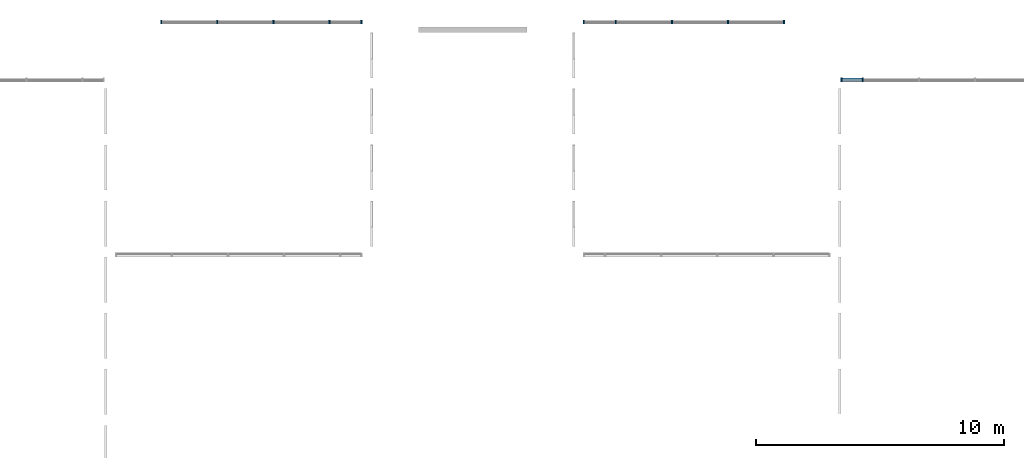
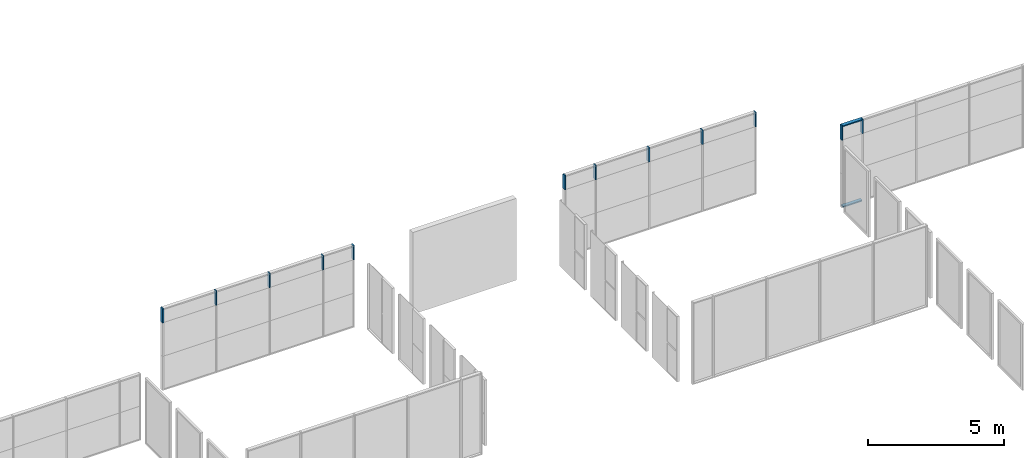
# One storey, part 6 of 15: 14 members, 3 elements without a shape of their own.
"""IFC2X3 building model written with IfcOpenShell, lengths in millimetres."""

import ifcopenshell
import ifcopenshell.guid

model = None  # the IFC model being written
_history = None  # IfcOwnerHistory: only IFC2X3 demands one
_inside = {}  # id of a spatial element -> (the spatial element, [elements in it])
_under = {}  # id of a project, library or spatial element -> (it, [spatial elements below it])
_declared = {}  # id of a project -> (the project, [libraries it declares])
_typed = {}  # id of a type object -> (the type object, [elements of that type])
_made_of = {}  # id of a material, layer set ... -> (it, [elements and type objects made of it])


def new_model(schema):
    """Start an empty IFC model of exactly this schema.

    Asked for "IFC4X3", IfcOpenShell would pick the latest addendum, in which some entities
    have other attributes; the version numbers below select the first issue.
    IFC2X3 requires an IfcOwnerHistory on every rooted entity: one is made here for all.
    """
    global model, _history
    if schema == "IFC4X3":
        model = ifcopenshell.file(schema_version=(4, 3, 0, 0))
    else:
        model = ifcopenshell.file(schema=schema)
    _inside.clear()
    _under.clear()
    _declared.clear()
    _typed.clear()
    _made_of.clear()
    _history = None
    if model.schema == "IFC2X3":
        org = make("IfcOrganization", Name="unknown")
        user = make(
            "IfcPersonAndOrganization",
            ThePerson=make("IfcPerson", FamilyName="unknown"),
            TheOrganization=org,
        )
        app = make(
            "IfcApplication",
            ApplicationDeveloper=org,
            Version="unknown",
            ApplicationFullName="unknown",
            ApplicationIdentifier="unknown",
        )
        _history = make(
            "IfcOwnerHistory",
            OwningUser=user,
            OwningApplication=app,
            ChangeAction="ADDED",
            CreationDate=0,
        )
    return model


def make(cls, **values):
    """One entity of the class cls with the attributes given. An attribute that is None is left unset."""
    return model.create_entity(
        cls, **{name: value for name, value in values.items() if value is not None}
    )


def entity(cls, *values):
    """Any entity or typed value of the class cls, its attributes in the order of the schema. None: left unset."""
    e = model.create_entity(cls)
    for i, value in enumerate(values):
        if value is not None:
            e[i] = value
    return e


def rooted(cls, **values):
    """An entity with a GlobalId (a new one), such as an element, a storey or a relation."""
    return make(cls, GlobalId=ifcopenshell.guid.new(), OwnerHistory=_history, **values)


def si_unit(unit_type, name, prefix=None):
    """IfcSIUnit, for example si_unit("LENGTHUNIT", "METRE", prefix="MILLI")."""
    return make("IfcSIUnit", UnitType=unit_type, Prefix=prefix, Name=name)


def converted_unit(unit_type, name, factor, base, dimensions=None, offset=None):
    """IfcConversionBasedUnit, such as the inch: factor (a typed value) times the base unit."""
    return make(
        "IfcConversionBasedUnit"
        if offset is None
        else "IfcConversionBasedUnitWithOffset",
        ConversionOffset=offset,
        Dimensions=None
        if dimensions is None
        else entity("IfcDimensionalExponents", *dimensions),
        UnitType=unit_type,
        Name=name,
        ConversionFactor=make(
            "IfcMeasureWithUnit", ValueComponent=factor, UnitComponent=base
        ),
    )


def derived_unit(unit_type, elements):
    """IfcDerivedUnit: a product of units, each with its exponent."""
    return make(
        "IfcDerivedUnit",
        Elements=[
            make("IfcDerivedUnitElement", Unit=unit, Exponent=power)
            for unit, power in elements
        ],
        UnitType=unit_type,
    )


def assignment(units):
    """IfcUnitAssignment: the units of a project."""
    return None if units is None else make("IfcUnitAssignment", Units=units)


def point(xyz):
    """IfcCartesianPoint."""
    return None if xyz is None else make("IfcCartesianPoint", Coordinates=xyz)


def direction(xyz):
    """IfcDirection."""
    return None if xyz is None else make("IfcDirection", DirectionRatios=xyz)


def frame(location, z_axis=None, x_axis=None):
    """IfcAxis2Placement3D, a coordinate frame: its origin and axes. An axis left out is left unset."""
    return make(
        "IfcAxis2Placement3D",
        Location=point(location),
        Axis=direction(z_axis),
        RefDirection=direction(x_axis),
    )


def frame_2d(location, x_axis=None):
    """IfcAxis2Placement2D, a coordinate frame in the plane: its origin and x axis."""
    return make(
        "IfcAxis2Placement2D", Location=point(location), RefDirection=direction(x_axis)
    )


def origin():
    """The frame at (0, 0, 0) with its axes left unset."""
    return frame((0.0, 0.0, 0.0))


def origin_2d_with_axis():
    """The frame at (0, 0) in the plane with the x axis (1, 0) written out."""
    return frame_2d((0.0, 0.0), x_axis=(1.0, 0.0))


def place(relative_to, where):
    """IfcLocalPlacement: puts the frame where relative to a parent placement (None: the world)."""
    return make(
        "IfcLocalPlacement", PlacementRelTo=relative_to, RelativePlacement=where
    )


def context(
    kind, dimensions, precision=None, world=None, true_north=None, identifier=None
):
    """IfcGeometricRepresentationContext, for example the 3D "Model" context."""
    return make(
        "IfcGeometricRepresentationContext",
        ContextIdentifier=identifier,
        ContextType=kind,
        CoordinateSpaceDimension=dimensions,
        Precision=precision,
        WorldCoordinateSystem=world,
        TrueNorth=true_north,
    )


def subcontext(parent, identifier, kind, view, scale=None):
    """IfcGeometricRepresentationSubContext, for example "Body" below "Model"."""
    return make(
        "IfcGeometricRepresentationSubContext",
        ContextIdentifier=identifier,
        ContextType=kind,
        ParentContext=parent,
        TargetScale=scale,
        TargetView=view,
    )


def project(units=None, contexts=None):
    """IfcProject with its units and contexts."""
    return rooted(
        "IfcProject",
        Name="project",
        RepresentationContexts=contexts,
        UnitsInContext=assignment(units),
    )


def spatial(cls, under=None, at=None, **own):
    """A site, building, storey or space (cls), placed at a placement, below another one or the project."""
    s = rooted(cls, ObjectPlacement=at, **own)
    if under is not None:
        _under.setdefault(under.id(), (under, []))[1].append(s)
    return s


def profile(cls, at=None, kind="AREA", **sizes):
    """A parametric profile (cls). Its sizes go by their IFC names, for example OverallWidth=200.0."""
    return make(cls, ProfileType=kind, Position=at, **sizes)


def rectangle(**sizes):
    """IfcRectangleProfileDef."""
    return profile("IfcRectangleProfileDef", **sizes)


def extrude(swept, where, along, depth):
    """IfcExtrudedAreaSolid: the profile swept, set in the frame where, extruded along a direction by depth."""
    return make(
        "IfcExtrudedAreaSolid",
        SweptArea=swept,
        Position=where,
        ExtrudedDirection=direction(along),
        Depth=depth,
    )


def shape(context_of_items, identifier, shape_type, items):
    """IfcShapeRepresentation: the items that make up one representation, for example the "Body"."""
    return make(
        "IfcShapeRepresentation",
        ContextOfItems=context_of_items,
        RepresentationIdentifier=identifier,
        RepresentationType=shape_type,
        Items=items,
    )


def source(mapping_origin, context_of_items, identifier, shape_type, items):
    """IfcRepresentationMap: a shape defined once, which mapped items show again and again."""
    return make(
        "IfcRepresentationMap",
        MappingOrigin=mapping_origin,
        MappedRepresentation=shape(context_of_items, identifier, shape_type, items),
    )


def transform(
    local_origin,
    x_axis=None,
    y_axis=None,
    z_axis=None,
    scale=None,
    scale2=None,
    scale3=None,
    uniform=True,
):
    """IfcCartesianTransformationOperator3D, or its non-uniform kind. x_axis, y_axis, z_axis: its Axis1, 2, 3."""
    if uniform:
        return make(
            "IfcCartesianTransformationOperator3D",
            Axis1=direction(x_axis),
            Axis2=direction(y_axis),
            LocalOrigin=point(local_origin),
            Scale=scale,
            Axis3=direction(z_axis),
        )
    return make(
        "IfcCartesianTransformationOperator3DnonUniform",
        Axis1=direction(x_axis),
        Axis2=direction(y_axis),
        LocalOrigin=point(local_origin),
        Scale=scale,
        Axis3=direction(z_axis),
        Scale2=scale2,
        Scale3=scale3,
    )


def mapped(mapping_source, mapping_target):
    """IfcMappedItem: shows the shape of a source again, moved by a transform."""
    return make(
        "IfcMappedItem", MappingSource=mapping_source, MappingTarget=mapping_target
    )


def material(Name=None, Category=None):
    """IfcMaterial."""
    return make("IfcMaterial", Name=Name, Category=Category)


def made_of(thing, what):
    """Note that an element or type object is made of a material, layer set ...; save() writes the relation."""
    if what is not None:
        _made_of.setdefault(what.id(), (what, []))[1].append(thing)
    return thing


def type_object(cls, material=None, **own):
    """A type object (cls), such as IfcWallType, which elements share."""
    return made_of(rooted(cls, **own), material)


def type_shapes(of_type, sources):
    """Give a type object the sources (RepresentationMaps) that its elements show as mapped items."""
    of_type.RepresentationMaps = sources


def element(
    cls,
    number,
    at=None,
    inside=None,
    cuts=None,
    type_object=None,
    material=None,
    context=None,
    identifier="Body",
    shape_type=None,
    held_by="IfcProductDefinitionShape",
    body=None,
    shapes=None,
    **own,
):
    """One element of the class cls, such as IfcWall. Its Tag is "e" and its number.

    at: its placement. inside: the storey or other place that contains it. cuts: it is an
    opening in that element (IfcRelVoidsElement). A single representation is given by context,
    identifier, shape_type and body (its items); several are given by shapes. held_by: the class
    of the entity that holds the representations. save() writes the other relations.
    """
    e = rooted(cls, Tag="e%d" % number, ObjectPlacement=at, **own)
    if body is not None:
        shapes = [shape(context, identifier, shape_type, body)]
    if shapes is not None:
        e.Representation = make(held_by, Representations=shapes)
    if inside is not None:
        _inside.setdefault(inside.id(), (inside, []))[1].append(e)
    if cuts is not None:
        rooted(
            "IfcRelVoidsElement", RelatingBuildingElement=cuts, RelatedOpeningElement=e
        )
    if type_object is not None:
        _typed.setdefault(type_object.id(), (type_object, []))[1].append(e)
    return made_of(e, material)


def aggregate(whole, parts):
    """IfcRelAggregates: a whole, such as a stair, and the parts it consists of."""
    return rooted("IfcRelAggregates", RelatingObject=whole, RelatedObjects=parts)


def save(model, path):
    """Write the relations noted so far, then the file.

    IfcRelAggregates (storeys below a building ...), IfcRelContainedInSpatialStructure (elements
    in a storey), IfcRelDefinesByType, IfcRelAssociatesMaterial and IfcRelDeclares: one each for
    every whole, place, type object, material and project.
    """
    for whole, parts in _under.values():
        aggregate(whole, parts)
    for where, things in _inside.values():
        rooted(
            "IfcRelContainedInSpatialStructure",
            RelatedElements=things,
            RelatingStructure=where,
        )
    for kind, things in _typed.values():
        rooted("IfcRelDefinesByType", RelatedObjects=things, RelatingType=kind)
    for what, things in _made_of.values():
        rooted("IfcRelAssociatesMaterial", RelatedObjects=things, RelatingMaterial=what)
    for by, libraries in _declared.values():
        rooted("IfcRelDeclares", RelatingContext=by, RelatedDefinitions=libraries)
    model.write(path)


model = new_model("IFC2X3")

# Units and contexts
model_context = context("Model", 3, precision=0.01, world=origin(), true_north=direction((6.12303176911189e-17, 1.0)))
body_context = subcontext(model_context, "Body", "Model", "MODEL_VIEW")
ifc_project = project(units=[si_unit("LENGTHUNIT", "METRE", prefix="MILLI"), si_unit("AREAUNIT", "SQUARE_METRE"), si_unit("VOLUMEUNIT", "CUBIC_METRE"), converted_unit("PLANEANGLEUNIT", "DEGREE", entity("IfcRatioMeasure", 0.0174532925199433), si_unit("PLANEANGLEUNIT", "RADIAN"), dimensions=[0, 0, 0, 0, 0, 0, 0]), si_unit("MASSUNIT", "GRAM", prefix="KILO"), derived_unit("MASSDENSITYUNIT", [(si_unit("MASSUNIT", "GRAM", prefix="KILO"), 1), (si_unit("LENGTHUNIT", "METRE"), -3)]), derived_unit("MOMENTOFINERTIAUNIT", [(si_unit("LENGTHUNIT", "METRE"), 4)]), si_unit("TIMEUNIT", "SECOND"), si_unit("FREQUENCYUNIT", "HERTZ"), si_unit("THERMODYNAMICTEMPERATUREUNIT", "DEGREE_CELSIUS"), derived_unit("THERMALTRANSMITTANCEUNIT", [(si_unit("MASSUNIT", "GRAM", prefix="KILO"), 1), (si_unit("THERMODYNAMICTEMPERATUREUNIT", "KELVIN"), -1), (si_unit("TIMEUNIT", "SECOND"), -3)]), derived_unit("VOLUMETRICFLOWRATEUNIT", [(si_unit("LENGTHUNIT", "METRE"), 3), (si_unit("TIMEUNIT", "SECOND"), -1)]), si_unit("ELECTRICCURRENTUNIT", "AMPERE"), si_unit("ELECTRICVOLTAGEUNIT", "VOLT"), si_unit("POWERUNIT", "WATT"), si_unit("FORCEUNIT", "NEWTON", prefix="KILO"), si_unit("ILLUMINANCEUNIT", "LUX"), si_unit("LUMINOUSFLUXUNIT", "LUMEN"), si_unit("LUMINOUSINTENSITYUNIT", "CANDELA"), derived_unit("USERDEFINED", [(si_unit("MASSUNIT", "GRAM", prefix="KILO"), -1), (si_unit("LENGTHUNIT", "METRE"), -2), (si_unit("TIMEUNIT", "SECOND"), 3), (si_unit("LUMINOUSFLUXUNIT", "LUMEN"), 1)]), derived_unit("LINEARVELOCITYUNIT", [(si_unit("LENGTHUNIT", "METRE"), 1), (si_unit("TIMEUNIT", "SECOND"), -1)]), si_unit("PRESSUREUNIT", "PASCAL"), derived_unit("USERDEFINED", [(si_unit("LENGTHUNIT", "METRE"), -2), (si_unit("MASSUNIT", "GRAM", prefix="KILO"), 1), (si_unit("TIMEUNIT", "SECOND"), -2)]), derived_unit("LINEARFORCEUNIT", [(si_unit("MASSUNIT", "GRAM", prefix="KILO"), 1), (si_unit("LENGTHUNIT", "METRE"), 1), (si_unit("TIMEUNIT", "SECOND"), -2), (si_unit("LENGTHUNIT", "METRE"), -1)]), derived_unit("PLANARFORCEUNIT", [(si_unit("MASSUNIT", "GRAM", prefix="KILO"), 1), (si_unit("LENGTHUNIT", "METRE"), 1), (si_unit("TIMEUNIT", "SECOND"), -2), (si_unit("LENGTHUNIT", "METRE"), -2)])], contexts=[model_context])

# Site, building, storey
site_placement = place(None, frame((10627.5135316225, 21939.0796949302, 0.0)))
site = spatial("IfcSite", under=ifc_project, at=site_placement, Name="Default", CompositionType="ELEMENT")
building_placement = place(site_placement, origin())
building = spatial("IfcBuilding", under=site, at=building_placement, CompositionType="ELEMENT")
storey_placement = place(building_placement, origin())
storey = spatial("IfcBuildingStorey", under=building, at=storey_placement, Name="RDC", CompositionType="ELEMENT", Elevation=0.0)

# Curtain wall, members
curtain_wall_type = type_object("IfcCurtainWallType", Name="Curtain Wall:Curtain_Wall-Empty", PredefinedType="NOTDEFINED")
curtain_wall_1_placement = place(storey_placement, origin())
curtain_wall_1 = element("IfcCurtainWall", 1, at=curtain_wall_1_placement, inside=storey, type_object=curtain_wall_type, Name="Curtain Wall:Curtain_Wall-Empty", ObjectType="Curtain Wall:Curtain_Wall-Empty")
ifc_material = material(Name="Aluminium")
member_type_1 = type_object("IfcMemberType", Name="Rectangular Mullion:50x150mm", PredefinedType="MULLION", material=ifc_material)
shared_shape_1 = source(origin(), body_context, "Body", "SweptSolid", [
    extrude(rectangle(XDim=150.0, YDim=50.0, at=origin_2d_with_axis()), frame((-25.0, 0.0, -645.0), z_axis=(0.0, 0.0, 1.0), x_axis=(0.0, -1.0, 0.0)), (0.0, 0.0, 1.0), 645.0),
])
type_shapes(member_type_1, [shared_shape_1])
member_1_placement = place(storey_placement, frame((14007.4864683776, 16695.9203050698, 3660.0), z_axis=(0.0, 0.0, 1.0), x_axis=(-1.0, 0.0, 0.0)))
member_1 = element("IfcMember", 2, at=member_1_placement, type_object=member_type_1, material=ifc_material, Name="Rectangular Mullion:50x150mm", ObjectType="Rectangular Mullion:50x150mm", context=body_context, shape_type="MappedRepresentation", body=[
    mapped(shared_shape_1, transform((0.0, 0.0, 0.0), scale=1.0)),
])
member_type_2 = type_object("IfcMemberType", Name="Rectangular Mullion:50x150mm", PredefinedType="MULLION", material=ifc_material)
shared_shape_2 = source(origin(), body_context, "Body", "SweptSolid", [
    extrude(rectangle(XDim=150.0, YDim=50.0, at=origin_2d_with_axis()), frame((-25.0, 0.0, -645.0), z_axis=(0.0, 0.0, 1.0), x_axis=(0.0, -1.0, 0.0)), (0.0, 0.0, 1.0), 645.0),
])
type_shapes(member_type_2, [shared_shape_2])
member_2_placement = place(storey_placement, frame((22127.4864683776, 16695.9203050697, 3015.0), z_axis=(0.0, 0.0, -1.0), x_axis=(1.0, 0.0, 0.0)))
member_2 = element("IfcMember", 3, at=member_2_placement, type_object=member_type_2, material=ifc_material, Name="Rectangular Mullion:50x150mm", ObjectType="Rectangular Mullion:50x150mm", context=body_context, shape_type="MappedRepresentation", body=[
    mapped(shared_shape_2, transform((0.0, 0.0, 0.0), scale=1.0)),
])
member_type_3 = type_object("IfcMemberType", Name="Rectangular Mullion:50x150mm", PredefinedType="MULLION", material=ifc_material)
shared_shape_3 = source(origin(), body_context, "Body", "SweptSolid", [
    extrude(rectangle(XDim=150.0, YDim=50.0, at=origin_2d_with_axis()), frame((0.0, 0.0, -645.0), z_axis=(0.0, 0.0, 1.0), x_axis=(0.0, -1.0, 0.0)), (0.0, 0.0, 1.0), 645.0),
])
type_shapes(member_type_3, [shared_shape_3])
member_3_placement = place(storey_placement, frame((16292.4864686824, 16695.9203050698, 3015.0), z_axis=(0.0, 0.0, -1.0), x_axis=(1.0, 0.0, 0.0)))
member_3 = element("IfcMember", 4, at=member_3_placement, type_object=member_type_3, material=ifc_material, Name="Rectangular Mullion:50x150mm", ObjectType="Rectangular Mullion:50x150mm", context=body_context, shape_type="MappedRepresentation", body=[
    mapped(shared_shape_3, transform((0.0, 0.0, 0.0), scale=1.0)),
])
member_4_placement = place(storey_placement, frame((18552.4864686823, 16695.9203050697, 3015.0), z_axis=(0.0, 0.0, -1.0), x_axis=(1.0, 0.0, 0.0)))
member_4 = element("IfcMember", 5, at=member_4_placement, type_object=member_type_3, material=ifc_material, Name="Rectangular Mullion:50x150mm", ObjectType="Rectangular Mullion:50x150mm", context=body_context, shape_type="MappedRepresentation", body=[
    mapped(shared_shape_3, transform((0.0, 0.0, 0.0), scale=1.0)),
])
member_5_placement = place(storey_placement, frame((20812.4864686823, 16695.9203050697, 3015.0), z_axis=(0.0, 0.0, -1.0), x_axis=(1.0, 0.0, 0.0)))
member_5 = element("IfcMember", 6, at=member_5_placement, type_object=member_type_3, material=ifc_material, Name="Rectangular Mullion:50x150mm", ObjectType="Rectangular Mullion:50x150mm", context=body_context, shape_type="MappedRepresentation", body=[
    mapped(shared_shape_3, transform((0.0, 0.0, 0.0), scale=1.0)),
])
aggregate(curtain_wall_1, [member_1, member_2, member_3, member_4, member_5])

curtain_wall_2_placement = place(storey_placement, origin())
curtain_wall_2 = element("IfcCurtainWall", 7, at=curtain_wall_2_placement, inside=storey, type_object=curtain_wall_type, Name="Curtain Wall:Curtain_Wall-Empty", ObjectType="Curtain Wall:Curtain_Wall-Empty")
member_type_4 = type_object("IfcMemberType", Name="Rectangular Mullion:50x150mm", PredefinedType="MULLION", material=ifc_material)
shared_shape_4 = source(origin(), body_context, "Body", "SweptSolid", [
    extrude(rectangle(XDim=150.0, YDim=50.0, at=origin_2d_with_axis()), frame((-25.0, 0.0, -645.0), z_axis=(0.0, 0.0, 1.0), x_axis=(0.0, -1.0, 0.0)), (0.0, 0.0, 1.0), 645.0),
])
type_shapes(member_type_4, [shared_shape_4])
member_6_placement = place(storey_placement, frame((39147.4864683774, 16695.9203050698, 3660.0)))
member_6 = element("IfcMember", 8, at=member_6_placement, type_object=member_type_4, material=ifc_material, Name="Rectangular Mullion:50x150mm", ObjectType="Rectangular Mullion:50x150mm", context=body_context, shape_type="MappedRepresentation", body=[
    mapped(shared_shape_4, transform((0.0, 0.0, 0.0), scale=1.0)),
])
member_type_5 = type_object("IfcMemberType", Name="Rectangular Mullion:50x150mm", PredefinedType="MULLION", material=ifc_material)
shared_shape_5 = source(origin(), body_context, "Body", "SweptSolid", [
    extrude(rectangle(XDim=150.0, YDim=50.0, at=origin_2d_with_axis()), frame((-25.0, 0.0, -645.0), z_axis=(0.0, 0.0, 1.0), x_axis=(0.0, -1.0, 0.0)), (0.0, 0.0, 1.0), 645.0),
])
type_shapes(member_type_5, [shared_shape_5])
member_7_placement = place(storey_placement, frame((31027.4864683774, 16695.9203050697, 3015.0), z_axis=(0.0, 0.0, -1.0), x_axis=(-1.0, 0.0, 0.0)))
member_7 = element("IfcMember", 9, at=member_7_placement, type_object=member_type_5, material=ifc_material, Name="Rectangular Mullion:50x150mm", ObjectType="Rectangular Mullion:50x150mm", context=body_context, shape_type="MappedRepresentation", body=[
    mapped(shared_shape_5, transform((0.0, 0.0, 0.0), scale=1.0)),
])

# Curtain wall, member
curtain_wall_3_placement = place(storey_placement, origin())
curtain_wall_3 = element("IfcCurtainWall", 10, at=curtain_wall_3_placement, inside=storey, type_object=curtain_wall_type, Name="Curtain Wall:Curtain_Wall-Empty", ObjectType="Curtain Wall:Curtain_Wall-Empty")
member_8_placement = place(storey_placement, frame((41407.4864683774, 14360.9203050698, 3015.0), z_axis=(0.0, 0.0, -1.0), x_axis=(-1.0, 0.0, 0.0)))
member_8 = element("IfcMember", 11, at=member_8_placement, type_object=member_type_5, material=ifc_material, Name="Rectangular Mullion:50x150mm", ObjectType="Rectangular Mullion:50x150mm", context=body_context, shape_type="MappedRepresentation", body=[
    mapped(shared_shape_5, transform((0.0, 0.0, 0.0), scale=1.0)),
])

# Member
member_type_6 = type_object("IfcMemberType", Name="Rectangular Mullion:50x150mm", PredefinedType="MULLION", material=ifc_material)
shared_shape_6 = source(origin(), body_context, "Body", "SweptSolid", [
    extrude(rectangle(XDim=150.0, YDim=50.0, at=origin_2d_with_axis()), frame((0.0, 0.0, -645.0), z_axis=(0.0, 0.0, 1.0), x_axis=(0.0, -1.0, 0.0)), (0.0, 0.0, 1.0), 645.0),
])
type_shapes(member_type_6, [shared_shape_6])
member_9_placement = place(storey_placement, frame((36862.4864680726, 16695.9203050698, 3015.0), z_axis=(0.0, 0.0, -1.0), x_axis=(-1.0, 0.0, 0.0)))
member_9 = element("IfcMember", 12, at=member_9_placement, type_object=member_type_6, material=ifc_material, Name="Rectangular Mullion:50x150mm", ObjectType="Rectangular Mullion:50x150mm", context=body_context, shape_type="MappedRepresentation", body=[
    mapped(shared_shape_6, transform((0.0, 0.0, 0.0), scale=1.0)),
])

member_10_placement = place(storey_placement, frame((34602.4864680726, 16695.9203050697, 3015.0), z_axis=(0.0, 0.0, -1.0), x_axis=(-1.0, 0.0, 0.0)))
member_10 = element("IfcMember", 13, at=member_10_placement, type_object=member_type_6, material=ifc_material, Name="Rectangular Mullion:50x150mm", ObjectType="Rectangular Mullion:50x150mm", context=body_context, shape_type="MappedRepresentation", body=[
    mapped(shared_shape_6, transform((0.0, 0.0, 0.0), scale=1.0)),
])

member_11_placement = place(storey_placement, frame((32342.4864680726, 16695.9203050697, 3015.0), z_axis=(0.0, 0.0, -1.0), x_axis=(-1.0, 0.0, 0.0)))
member_11 = element("IfcMember", 14, at=member_11_placement, type_object=member_type_6, material=ifc_material, Name="Rectangular Mullion:50x150mm", ObjectType="Rectangular Mullion:50x150mm", context=body_context, shape_type="MappedRepresentation", body=[
    mapped(shared_shape_6, transform((0.0, 0.0, 0.0), scale=1.0)),
])

aggregate(curtain_wall_2, [member_6, member_7, member_9, member_10, member_11])

member_type_7 = type_object("IfcMemberType", Name="Rectangular Mullion:50x150mm", PredefinedType="MULLION", material=ifc_material)
shared_shape_7 = source(origin(), body_context, "Body", "SweptSolid", [
    extrude(rectangle(XDim=150.0, YDim=50.0, at=origin_2d_with_axis()), frame((-25.0, 0.0, -810.0), z_axis=(0.0, 0.0, 1.0), x_axis=(0.0, -1.0, 0.0)), (0.0, 0.0, 1.0), 809.999999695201),
])
type_shapes(member_type_7, [shared_shape_7])
member_12_placement = place(storey_placement, frame((41457.4864683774, 14360.9203050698, 3660.0), z_axis=(-1.0, 0.0, 0.0), x_axis=(0.0, 0.0, 1.0)))
member_12 = element("IfcMember", 15, at=member_12_placement, type_object=member_type_7, material=ifc_material, Name="Rectangular Mullion:50x150mm", ObjectType="Rectangular Mullion:50x150mm", context=body_context, shape_type="MappedRepresentation", body=[
    mapped(shared_shape_7, transform((0.0, 0.0, 0.0), scale=1.0)),
])

member_type_8 = type_object("IfcMemberType", Name="Rectangular Mullion:50x150mm", PredefinedType="MULLION", material=ifc_material)
shared_shape_8 = source(origin(), body_context, "Body", "SweptSolid", [
    extrude(rectangle(XDim=150.0, YDim=50.0, at=origin_2d_with_axis()), frame((-25.0, 0.0, -810.0), z_axis=(0.0, 0.0, 1.0), x_axis=(0.0, -1.0, 0.0)), (0.0, 0.0, 1.0), 809.999999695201),
])
type_shapes(member_type_8, [shared_shape_8])
member_13_placement = place(storey_placement, frame((42267.4864680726, 14360.9203050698, 0.0), z_axis=(1.0, 0.0, 0.0), x_axis=(0.0, 0.0, -1.0)))
member_13 = element("IfcMember", 16, at=member_13_placement, type_object=member_type_8, material=ifc_material, Name="Rectangular Mullion:50x150mm", ObjectType="Rectangular Mullion:50x150mm", context=body_context, shape_type="MappedRepresentation", body=[
    mapped(shared_shape_8, transform((0.0, 0.0, 0.0), scale=1.0)),
])

member_type_9 = type_object("IfcMemberType", Name="Rectangular Mullion:50x150mm", PredefinedType="MULLION", material=ifc_material)
shared_shape_9 = source(origin(), body_context, "Body", "SweptSolid", [
    extrude(rectangle(XDim=150.0, YDim=50.0, at=origin_2d_with_axis()), frame((0.0, 0.0, -645.0), z_axis=(0.0, 0.0, 1.0), x_axis=(0.0, -1.0, 0.0)), (0.0, 0.0, 1.0), 644.999999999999),
])
type_shapes(member_type_9, [shared_shape_9])
member_14_placement = place(storey_placement, frame((42292.4864680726, 14360.9203050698, 3015.0), z_axis=(0.0, 0.0, -1.0), x_axis=(-1.0, 0.0, 0.0)))
member_14 = element("IfcMember", 17, at=member_14_placement, type_object=member_type_9, material=ifc_material, Name="Rectangular Mullion:50x150mm", ObjectType="Rectangular Mullion:50x150mm", context=body_context, shape_type="MappedRepresentation", body=[
    mapped(shared_shape_9, transform((0.0, 0.0, 0.0), scale=1.0)),
])

aggregate(curtain_wall_3, [member_8, member_12, member_13, member_14])

save(model, "model.ifc")
